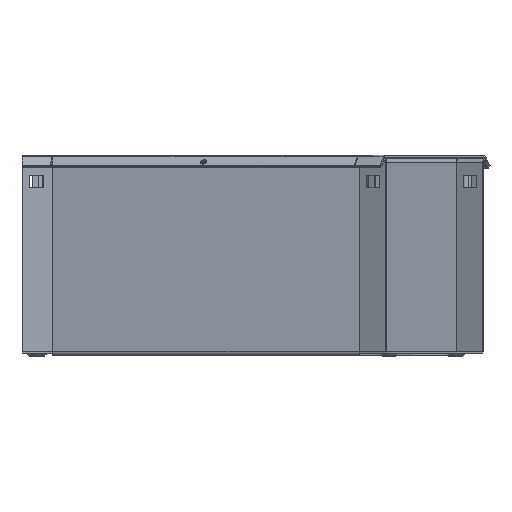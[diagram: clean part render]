
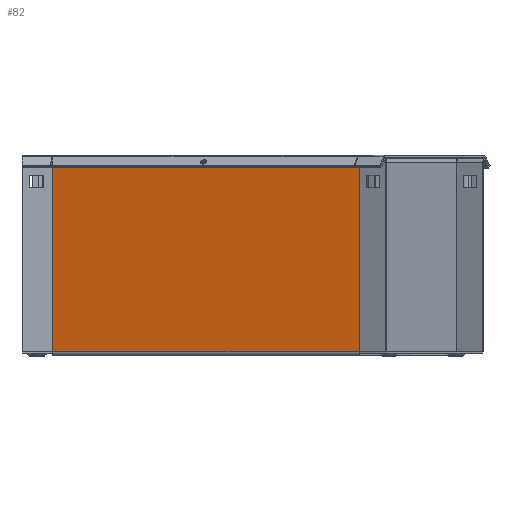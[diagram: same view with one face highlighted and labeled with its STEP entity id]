
A CAD part, top view. The second image highlights one B-rep face of the part: STEP entity #82.
In plain terms, the highlighted planar face has unit normal (-0.259, 0, 0.966) as drawn and (0, 0, 1) by its records, which use the part's own axes.
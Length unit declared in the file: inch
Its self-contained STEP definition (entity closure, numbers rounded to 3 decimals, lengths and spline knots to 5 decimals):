
#63 = EDGE_CURVE ( 'NONE', #10683, #319, #2749, .T. ) ;
#82 = ADVANCED_FACE ( 'NONE', ( #2776 ), #2775, .F. ) ;
#83 = EDGE_LOOP ( 'NONE', ( #84, #85, #87, #88, #115, #116 ) ) ;
#84 = ORIENTED_EDGE ( 'NONE', *, *, #299, .T. ) ;
#85 = ORIENTED_EDGE ( 'NONE', *, *, #86, .F. ) ;
#86 = EDGE_CURVE ( 'NONE', #4765, #301, #2770, .T. ) ;
#87 = ORIENTED_EDGE ( 'NONE', *, *, #4764, .F. ) ;
#88 = ORIENTED_EDGE ( 'NONE', *, *, #89, .F. ) ;
#89 = EDGE_CURVE ( 'NONE', #10661, #4767, #2766, .T. ) ;
#115 = ORIENTED_EDGE ( 'NONE', *, *, #10684, .F. ) ;
#116 = ORIENTED_EDGE ( 'NONE', *, *, #63, .T. ) ;
#299 = EDGE_CURVE ( 'NONE', #319, #301, #3327, .T. ) ;
#301 = VERTEX_POINT ( 'NONE', #3328 ) ;
#319 = VERTEX_POINT ( 'NONE', #3856 ) ;
#850 = CARTESIAN_POINT ( 'NONE',  ( 6.43, 7.756, 0.072 ) ) ;
#851 = CARTESIAN_POINT ( 'NONE',  ( 6.49758, 7.756, 0.072 ) ) ;
#852 = DIRECTION ( 'NONE',  ( 1., 0., 0. ) ) ;
#853 = VECTOR ( 'NONE', #852, 39.37008 ) ;
#854 = CARTESIAN_POINT ( 'NONE',  ( -6.51759, 7.756, 0.072 ) ) ;
#855 = LINE ( 'NONE', #854, #853 ) ;
#2746 = DIRECTION ( 'NONE',  ( 0., -1., 0. ) ) ;
#2747 = VECTOR ( 'NONE', #2746, 39.37008 ) ;
#2748 = CARTESIAN_POINT ( 'NONE',  ( -6.49758, 7.756, 0.072 ) ) ;
#2749 = LINE ( 'NONE', #2748, #2747 ) ;
#2763 = DIRECTION ( 'NONE',  ( 1., 0., 0. ) ) ;
#2764 = VECTOR ( 'NONE', #2763, 39.37008 ) ;
#2765 = CARTESIAN_POINT ( 'NONE',  ( -6.43, 7.756, 0.072 ) ) ;
#2766 = LINE ( 'NONE', #2765, #2764 ) ;
#2767 = DIRECTION ( 'NONE',  ( 0., -1., 0. ) ) ;
#2768 = VECTOR ( 'NONE', #2767, 39.37008 ) ;
#2769 = CARTESIAN_POINT ( 'NONE',  ( 6.49758, 7.756, 0.072 ) ) ;
#2770 = LINE ( 'NONE', #2769, #2768 ) ;
#2771 = DIRECTION ( 'NONE',  ( -1., 0., 0. ) ) ;
#2772 = DIRECTION ( 'NONE',  ( 0., 0., -1. ) ) ;
#2773 = CARTESIAN_POINT ( 'NONE',  ( -6.51759, 7.756, 0.072 ) ) ;
#2774 = AXIS2_PLACEMENT_3D ( 'NONE', #2773, #2772, #2771 ) ;
#2775 = PLANE ( 'NONE',  #2774 ) ;
#2776 = FACE_OUTER_BOUND ( 'NONE', #83, .T. ) ;
#3324 = DIRECTION ( 'NONE',  ( 1., 0., 0. ) ) ;
#3325 = VECTOR ( 'NONE', #3324, 39.37008 ) ;
#3326 = CARTESIAN_POINT ( 'NONE',  ( -6.51759, 0., 0.072 ) ) ;
#3327 = LINE ( 'NONE', #3326, #3325 ) ;
#3328 = CARTESIAN_POINT ( 'NONE',  ( 6.49758, 0., 0.072 ) ) ;
#3856 = CARTESIAN_POINT ( 'NONE',  ( -6.49758, 0., 0.072 ) ) ;
#4764 = EDGE_CURVE ( 'NONE', #4767, #4765, #855, .T. ) ;
#4765 = VERTEX_POINT ( 'NONE', #851 ) ;
#4767 = VERTEX_POINT ( 'NONE', #850 ) ;
#7935 = CARTESIAN_POINT ( 'NONE',  ( -6.43, 7.756, 0.072 ) ) ;
#8055 = DIRECTION ( 'NONE',  ( 1., 0., 0. ) ) ;
#8056 = VECTOR ( 'NONE', #8055, 39.37008 ) ;
#8057 = CARTESIAN_POINT ( 'NONE',  ( -6.51759, 7.756, 0.072 ) ) ;
#8058 = LINE ( 'NONE', #8057, #8056 ) ;
#8059 = CARTESIAN_POINT ( 'NONE',  ( -6.49758, 7.756, 0.072 ) ) ;
#10661 = VERTEX_POINT ( 'NONE', #7935 ) ;
#10683 = VERTEX_POINT ( 'NONE', #8059 ) ;
#10684 = EDGE_CURVE ( 'NONE', #10683, #10661, #8058, .T. ) ;
